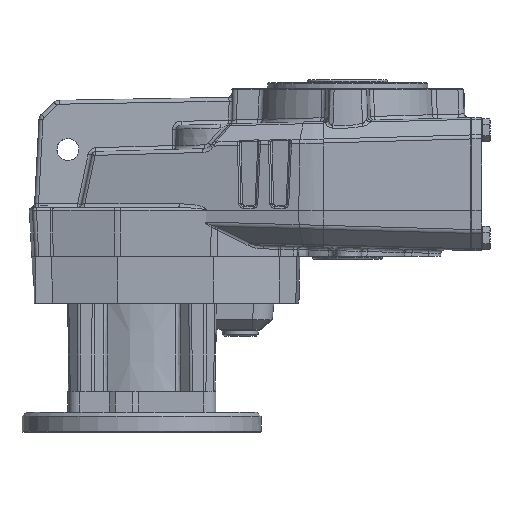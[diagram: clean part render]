
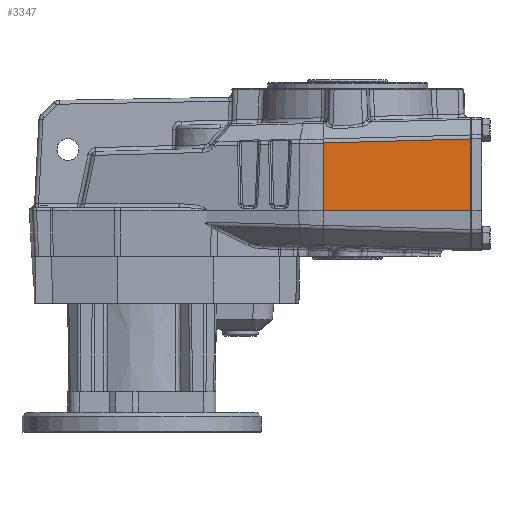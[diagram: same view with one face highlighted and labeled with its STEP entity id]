
A CAD part, left-side view. The second image highlights one B-rep face of the part: STEP entity #3347.
In plain terms, the highlighted planar face has unit normal (-0.998, 0.035, 0.044).
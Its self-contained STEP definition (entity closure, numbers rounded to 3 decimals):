
#3347 = ADVANCED_FACE( '', ( #7115 ), #7116, .T. );
#7115 = FACE_OUTER_BOUND( '', #17146, .T. );
#7116 = PLANE( '', #17147 );
#17146 = EDGE_LOOP( '', ( #27306, #27307, #27308, #27309 ) );
#17147 = AXIS2_PLACEMENT_3D( '', #27310, #27311, #27312 );
#27306 = ORIENTED_EDGE( '', *, *, #29515, .F. );
#27307 = ORIENTED_EDGE( '', *, *, #32612, .T. );
#27308 = ORIENTED_EDGE( '', *, *, #31369, .F. );
#27309 = ORIENTED_EDGE( '', *, *, #32613, .T. );
#27310 = CARTESIAN_POINT( '', ( -63.244, 102.834, -61. ) );
#27311 = DIRECTION( '', ( -0.998, 0.035, 0.044 ) );
#27312 = DIRECTION( '', ( -0.044, 0., -0.999 ) );
#29515 = EDGE_CURVE( '', #33909, #33911, #33912, .T. );
#31369 = EDGE_CURVE( '', #36790, #36791, #36792, .T. );
#32612 = EDGE_CURVE( '', #33909, #36791, #38320, .T. );
#32613 = EDGE_CURVE( '', #36790, #33911, #38321, .T. );
#33909 = VERTEX_POINT( '', #41009 );
#33911 = VERTEX_POINT( '', #41012 );
#33912 = LINE( '', #41013, #41014 );
#36790 = VERTEX_POINT( '', #48556 );
#36791 = VERTEX_POINT( '', #48557 );
#36792 = LINE( '', #48558, #48559 );
#38320 = LINE( '', #52718, #52719 );
#38321 = LINE( '', #52720, #52721 );
#41009 = CARTESIAN_POINT( '', ( -68.982, -61.483, -61. ) );
#41012 = CARTESIAN_POINT( '', ( -66.408, 12.228, -61. ) );
#41013 = CARTESIAN_POINT( '', ( -63.244, 102.834, -61. ) );
#41014 = VECTOR( '', #53990, 1000. );
#48556 = CARTESIAN_POINT( '', ( -64.933, 12.176, -27.192 ) );
#48557 = CARTESIAN_POINT( '', ( -67.417, -61.483, -25.175 ) );
#48558 = CARTESIAN_POINT( '', ( -61.848, 103.644, -29.697 ) );
#48559 = VECTOR( '', #55695, 1000. );
#52718 = CARTESIAN_POINT( '', ( -68.971, -61.483, -60.75 ) );
#52719 = VECTOR( '', #56532, 1000. );
#52720 = CARTESIAN_POINT( '', ( -66.408, 12.228, -61. ) );
#52721 = VECTOR( '', #56533, 1000. );
#53990 = DIRECTION( '', ( 0.035, 0.999, 0. ) );
#55695 = DIRECTION( '', ( -0.034, -0.999, 0.027 ) );
#56532 = DIRECTION( '', ( 0.044, 0., 0.999 ) );
#56533 = DIRECTION( '', ( -0.044, 0.002, -0.999 ) );
